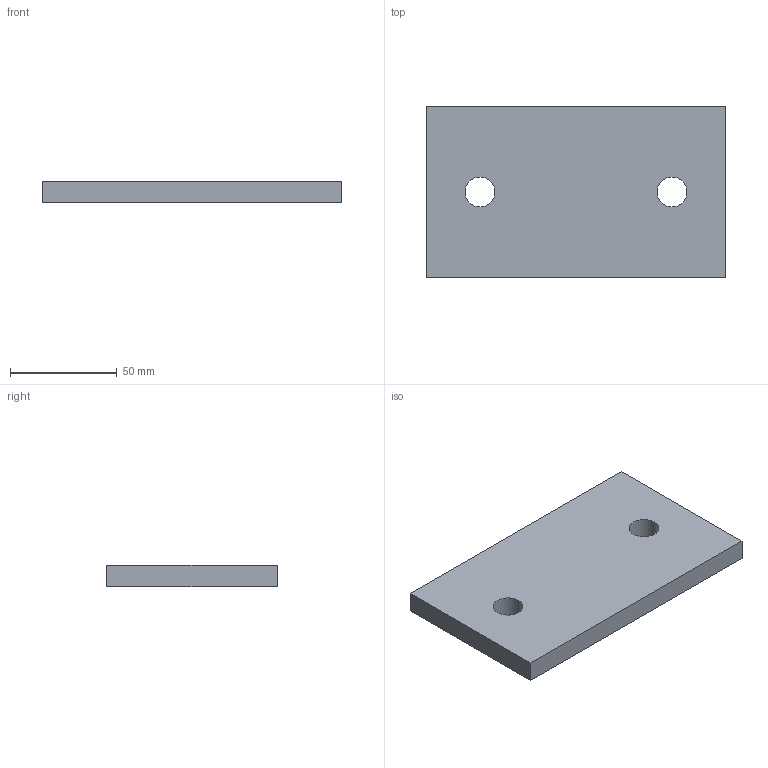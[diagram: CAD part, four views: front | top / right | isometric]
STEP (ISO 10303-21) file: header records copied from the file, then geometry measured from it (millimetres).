
FILE_DESCRIPTION(/* description */ (''),/* implementation_level */ '2;1');
FILE_NAME(/* name */ 'Pos109-Strip 80x10-S235JRG2-2st',/* time_stamp */ '2024-08-06T11:42:42+02:00',/* author */ (''),/* organization */ (''),/* preprocessor_version */ 'ST-DEVELOPER v16.5',/* originating_system */ 'HiCAD 2024 2901.2 Build 361',/* authorisation */ '');
FILE_SCHEMA (('AUTOMOTIVE_DESIGN { 1 0 10303 214 1 1 1 1 }'));
Length unit declared in the file: millimetre
Products named in the file (1): Pos109-Strip 80x10-S235JRG2-2st
Bounding box: 140 x 80 x 10 mm (x, y, z)
Volume: 108921.2 mm3; surface area: 27063.9 mm2
Topology: 1 solids, 1 shells, 8 faces, 20 edges, 14 vertices
Faces by surface type: plane 6, cylinder 2
Full cylindrical faces by diameter (mm): 14 x2
Entity records: 402 total; most frequent: DIRECTION 36, CARTESIAN_POINT 36, PRESENTATION_STYLE_ASSIGNMENT 33, COLOUR_RGB 33, DRAUGHTING_PRE_DEFINED_CURVE_FONT 32, CURVE_STYLE 32, OVER_RIDING_STYLED_ITEM 32, ORIENTED_EDGE 32
